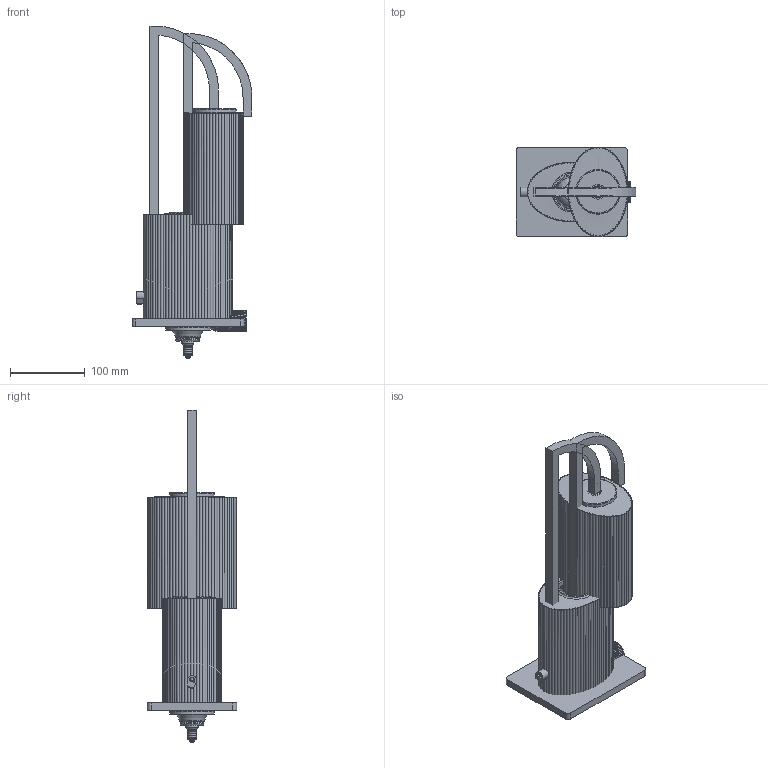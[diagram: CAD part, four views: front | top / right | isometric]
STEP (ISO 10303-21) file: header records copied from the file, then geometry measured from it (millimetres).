
FILE_DESCRIPTION( ( 'Unknown' ), '1' );
FILE_NAME( '//MMS001/Pubblica/PROGETTI MM LAMPADARI/7413 SERIE OVAL/STUDIO/LUMETTO 1 LUCE/7413LUMETTO.stp', 'Unknown', ( 'Unknown' ), ( 'Unknown' ), 'XStep 1.0', 'Unknown', ' ' );
FILE_SCHEMA( ( 'automotive_design' ) );
Length unit declared in the file: millimetre
Products named in the file (12): Assem1; Assem2; CPE14; CM600; 7413C013 ZAVORRA; 7413C013 STELO LUMETTO; 400104025 TUBETTO FILETTATO D9,5 L=25; 400123060 CENTRATUBO FE D 60X5; 7413C003 VETRO; 7415C070 GHIERA; LAMPADINA E14 OSRAM; 400240413 BLOCCAFILO PLAST.NERA TONDO CVIT
Bounding box: 161 x 120.04 x 445.5 mm (x, y, z)
Volume: 891504.4 mm3; surface area: 497492.9 mm2
Topology: 22 solids, 22 shells, 1256 faces, 3387 edges, 2220 vertices
Faces by surface type: plane 532, cylinder 359, extrusion 148, torus 96, cone 75, bspline 44, sphere 2
Full cylindrical faces by diameter (mm): 1.567 x3, 2 x3, 3 x3, 6 x4, 8 x2, 8.917 x8, 10 x2, 10.25 x2, 11 x2, 13 x2, 13.044 x12, 16 x3, 16.211 x2, 18.985 x2, 20 x3, 22.5 x15, 28 x5, 46 x2, 58 x2, 60 x2
Entity records: 21369 total; most frequent: CARTESIAN_POINT 9321, ORIENTED_EDGE 2494, DIRECTION 2225, EDGE_CURVE 1247, VERTEX_POINT 863, AXIS2_PLACEMENT_3D 799, EDGE_LOOP 628, VECTOR 627
